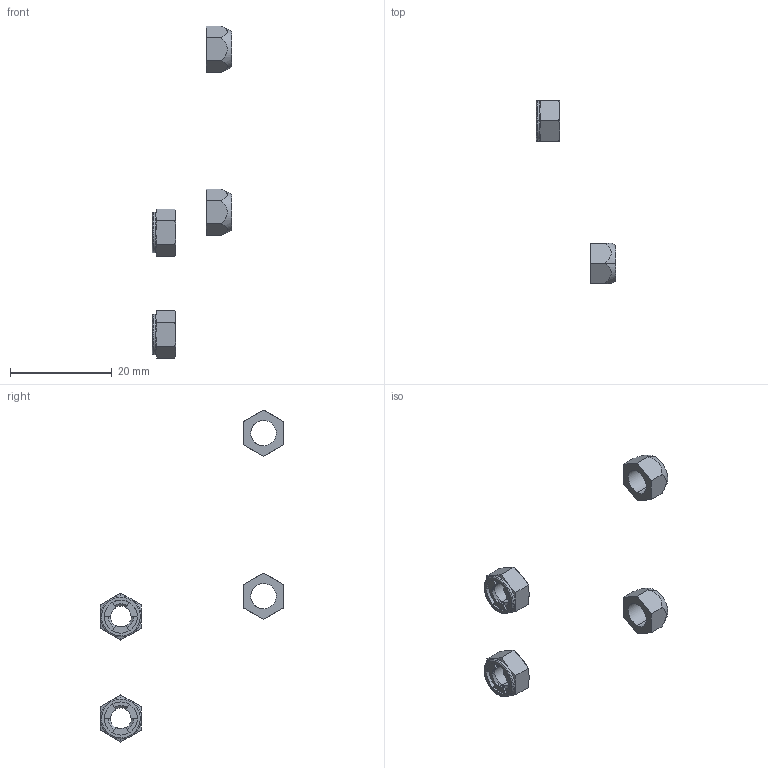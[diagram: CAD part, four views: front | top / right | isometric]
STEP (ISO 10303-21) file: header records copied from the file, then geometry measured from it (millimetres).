
FILE_DESCRIPTION(/* description */ (''),/* implementation_level */ '2;1');
FILE_NAME(/* name */ '6.y-drive#6.4#PACK-UNUT5',/* time_stamp */ '2014-12-01T20:14:40+01:00',/* author */ (''),/* organization */ (''),/* preprocessor_version */ 'ST-DEVELOPER v14',/* originating_system */ '',/* authorisation */ '');
FILE_SCHEMA (('AUTOMOTIVE_DESIGN'));
Length unit declared in the file: millimetre
Products named in the file (3): Document; nut DIN985, nyloc thin, M5; nut DIN985-like, lock, M5
Assembly tree (4 placements, depth 2):
  Document
    nut DIN985, nyloc thin, M5  x2
    nut DIN985-like, lock, M5  x2
Bounding box: 15.6 x 35.94 x 65.17 mm (x, y, z)
Volume: 671.2 mm3; surface area: 1076.9 mm2
Topology: 4 solids, 4 shells, 146 faces, 358 edges, 220 vertices
Faces by surface type: bspline 84, plane 62
Entity records: 6714 total; most frequent: CARTESIAN_POINT 4359, B_SPLINE_CURVE_WITH_KNOTS 381, ORIENTED_EDGE 358, PCURVE 358, DEFINITIONAL_REPRESENTATION 358, SURFACE_CURVE 179, EDGE_CURVE 179, VERTEX_POINT 110
